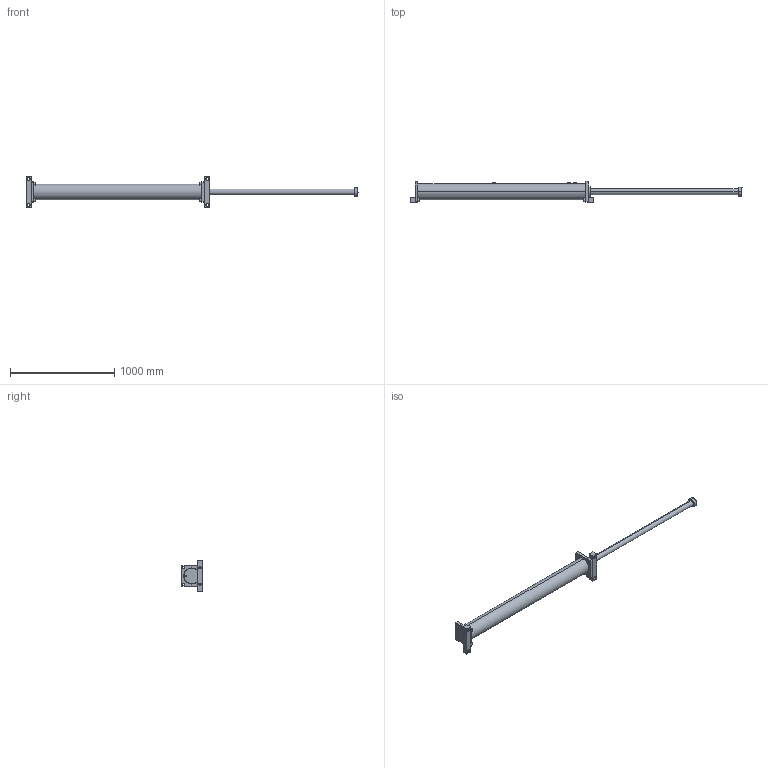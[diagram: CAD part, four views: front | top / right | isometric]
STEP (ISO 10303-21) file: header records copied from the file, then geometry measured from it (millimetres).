
FILE_DESCRIPTION (( 'STEP AP214' ), '1' );
FILE_NAME ('LDD3.5X56.STEP', '2019-01-16T08:29:24', ( 'user' ), ( 'Microsoft' ), 'SwSTEP 2.0', 'SolidWorks 2016', '' );
FILE_SCHEMA (( 'AUTOMOTIVE_DESIGN' ));
Length unit declared in the file: inch
Products named in the file (1): LDD3.5X56
Bounding box: 3189.4 x 205 x 300 mm (x, y, z)
Surface area: 1417913 mm2 (no closed solid volume)
Topology: 0 solids, 28 shells, 262 faces, 759 edges, 526 vertices
Faces by surface type: plane 95, cylinder 78, cone 57, bspline 32
Entity records: 15801 total; most frequent: CARTESIAN_POINT 9013, DIRECTION 1413, ORIENTED_EDGE 1289, EDGE_CURVE 759, AXIS2_PLACEMENT_3D 549, VERTEX_POINT 526, EDGE_LOOP 319, CIRCLE 318
